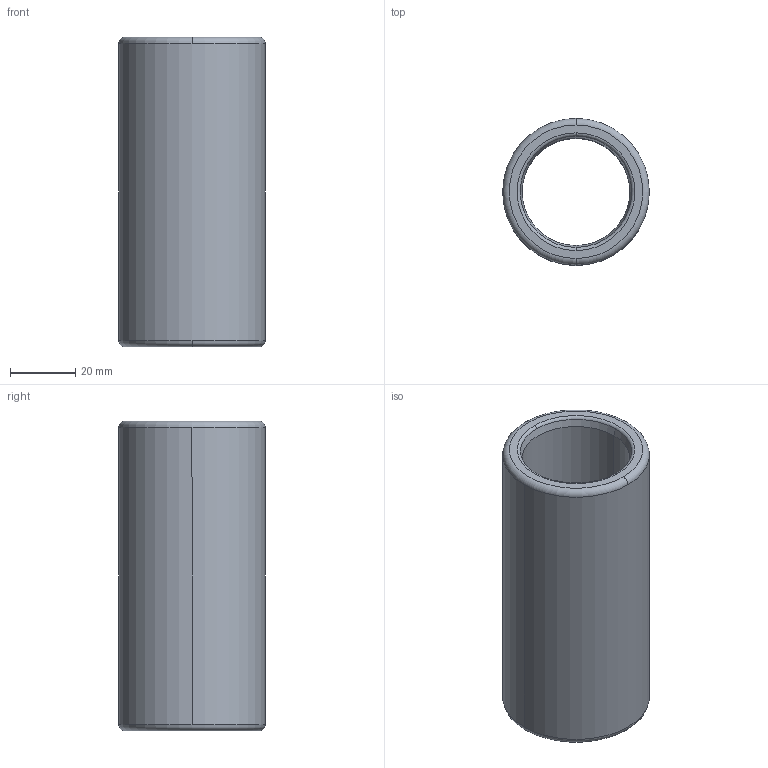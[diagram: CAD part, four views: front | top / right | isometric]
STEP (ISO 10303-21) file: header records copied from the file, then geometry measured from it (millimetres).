
FILE_DESCRIPTION((''),'2;1');
FILE_NAME('B30_025_095.stp','2009-01-12T09:59:31',(''),(''),'Mechanical Desktop 2009','Mechanical Desktop 2009',', , ');
FILE_SCHEMA(('CONFIG_CONTROL_DESIGN'));
Length unit declared in the file: millimetre
Products named in the file (2): Product; blmdl1
Assembly tree (1 placements, depth 2):
  Product
    blmdl1
Bounding box: 44.99 x 44.99 x 95 mm (x, y, z)
Volume: 69415 mm3; surface area: 24308.1 mm2
Topology: 1 solids, 1 shells, 18 faces, 48 edges, 32 vertices
Faces by surface type: torus 8, cylinder 4, cone 4, plane 2
Entity records: 705 total; most frequent: DIRECTION 128, CARTESIAN_POINT 100, ORIENTED_EDGE 96, AXIS2_PLACEMENT_3D 60, EDGE_CURVE 48, CIRCLE 40, VERTEX_POINT 32, EDGE_LOOP 20
